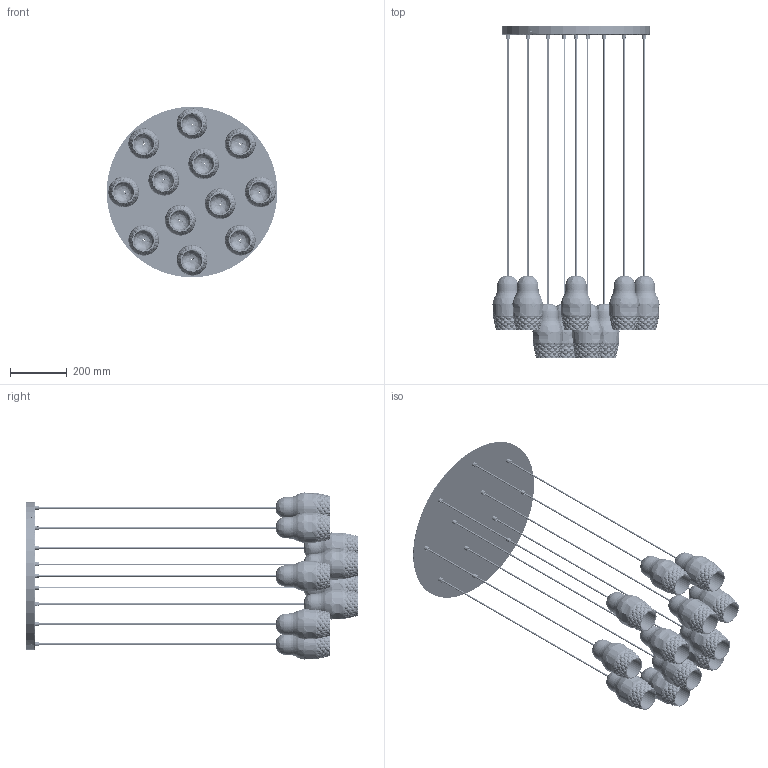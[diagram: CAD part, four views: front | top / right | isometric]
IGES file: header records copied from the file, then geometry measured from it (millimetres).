
Start section: SolidWorks IGES file using analytic representation for surfaces
Global section: file name: \\STORAGE\Tecnico Condiviso\1 FASCICOLI TECNICI\AXO DESIGN\AXO007-FEDORA\20150130-FEDORA CE\SP12\SW\SPFEDO12XXXXGU1-3D\SPFEDO12XXXXGU1-3D.IGS; native system: SolidWorks 2014; preprocessor: SolidWorks 2014; author: tecnico3; date: 150224.185920; units: millimetre
Bounding box: 600 x 1166.71 x 600 mm (x, y, z)
Surface area: 2741149.7 mm2 (no closed solid volume)
Topology: 0 solids, 0 shells, 3314 faces, 30750 edges, 30750 vertices
Faces by surface type: bspline 2887, revolution 427
